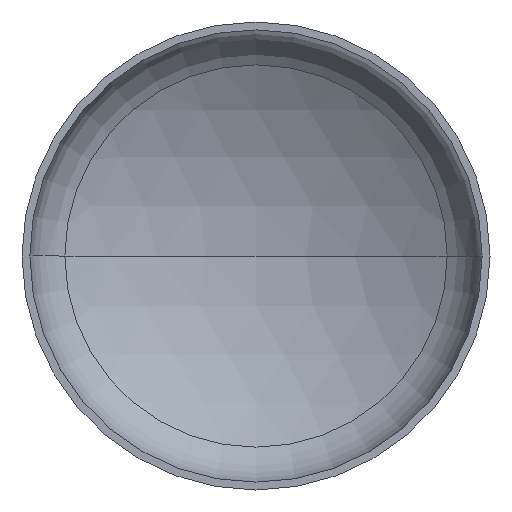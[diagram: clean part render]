
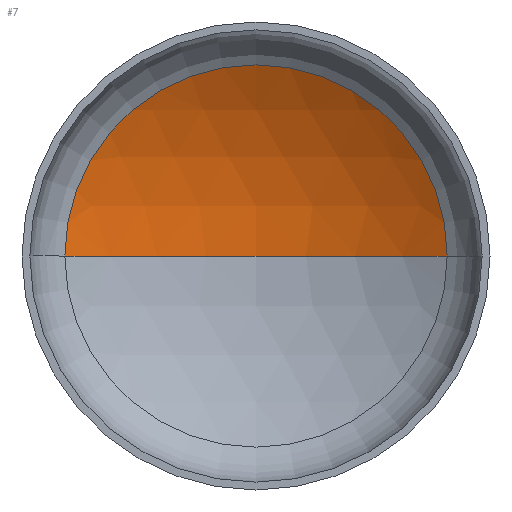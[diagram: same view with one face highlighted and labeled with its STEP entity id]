
A CAD part, front view. The second image highlights one B-rep face of the part: STEP entity #7.
In plain terms, the highlighted spherical face has radius 1520 mm.
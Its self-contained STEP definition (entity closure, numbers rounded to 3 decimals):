
#3 = AXIS2_PLACEMENT_3D ( 'NONE', #396, #311, #206 ) ;
#7 = ADVANCED_FACE ( 'NONE', ( #186 ), #227, .F. ) ;
#28 = AXIS2_PLACEMENT_3D ( 'NONE', #41, #276, #97 ) ;
#30 = AXIS2_PLACEMENT_3D ( 'NONE', #209, #205, #207 ) ;
#36 = EDGE_LOOP ( 'NONE', ( #82, #77, #411 ) ) ;
#41 = CARTESIAN_POINT ( 'NONE',  ( 0., -957.599, 0. ) ) ;
#46 = AXIS2_PLACEMENT_3D ( 'NONE', #239, #279, #273 ) ;
#69 = EDGE_CURVE ( 'NONE', #70, #111, #333, .T. ) ;
#70 = VERTEX_POINT ( 'NONE', #299 ) ;
#71 = EDGE_CURVE ( 'NONE', #171, #70, #263, .T. ) ;
#77 = ORIENTED_EDGE ( 'NONE', *, *, #71, .T. ) ;
#82 = ORIENTED_EDGE ( 'NONE', *, *, #348, .F. ) ;
#97 = DIRECTION ( 'NONE',  ( -1., 0., 0. ) ) ;
#111 = VERTEX_POINT ( 'NONE', #197 ) ;
#171 = VERTEX_POINT ( 'NONE', #251 ) ;
#186 = FACE_OUTER_BOUND ( 'NONE', #36, .T. ) ;
#197 = CARTESIAN_POINT ( 'NONE',  ( -776.065, 349.353, 0. ) ) ;
#205 = DIRECTION ( 'NONE',  ( 0., -1., 0. ) ) ;
#206 = DIRECTION ( 'NONE',  ( 1., 0., 0. ) ) ;
#207 = DIRECTION ( 'NONE',  ( 1., 0., 0. ) ) ;
#209 = CARTESIAN_POINT ( 'NONE',  ( 0., 349.353, 0. ) ) ;
#227 = SPHERICAL_SURFACE ( 'NONE', #46, 1520. ) ;
#239 = CARTESIAN_POINT ( 'NONE',  ( 0., -957.599, 0. ) ) ;
#251 = CARTESIAN_POINT ( 'NONE',  ( 0., 562.401, 0. ) ) ;
#263 = CIRCLE ( 'NONE', #28, 1520. ) ;
#273 = DIRECTION ( 'NONE',  ( -1., 0., 0. ) ) ;
#276 = DIRECTION ( 'NONE',  ( 0., 0., -1. ) ) ;
#279 = DIRECTION ( 'NONE',  ( 0., 0., -1. ) ) ;
#299 = CARTESIAN_POINT ( 'NONE',  ( 776.065, 349.353, 0. ) ) ;
#311 = DIRECTION ( 'NONE',  ( 0., 0., 1. ) ) ;
#333 = CIRCLE ( 'NONE', #30, 776.065 ) ;
#348 = EDGE_CURVE ( 'NONE', #171, #111, #359, .T. ) ;
#359 = CIRCLE ( 'NONE', #3, 1520. ) ;
#396 = CARTESIAN_POINT ( 'NONE',  ( 0., -957.599, 0. ) ) ;
#411 = ORIENTED_EDGE ( 'NONE', *, *, #69, .T. ) ;
